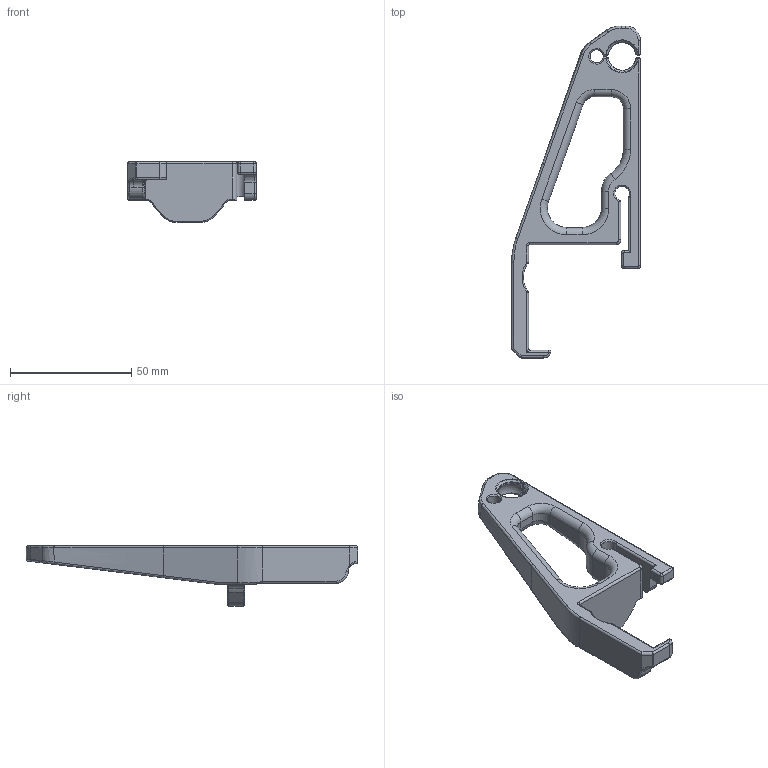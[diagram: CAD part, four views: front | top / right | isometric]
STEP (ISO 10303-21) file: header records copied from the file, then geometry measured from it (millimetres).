
FILE_DESCRIPTION(/* description */ (''),/* implementation_level */ '2;1');
FILE_NAME(/* name */ 'SOVOL SV06 PLUS Pi Camera mount v1.step',/* time_stamp */ '2023-08-26T12:00:41+02:00',/* author */ (''),/* organization */ (''),/* preprocessor_version */ 'ST-DEVELOPER v20',/* originating_system */ 'Autodesk Translation Framework v12.9.0.99',/* authorisation */ '');
FILE_SCHEMA (('AUTOMOTIVE_DESIGN { 1 0 10303 214 3 1 1 }'));
Length unit declared in the file: millimetre
Products named in the file (3): SOVOL SV06 PLUS Pi Camera mount; Komponente1; Komponente3
Assembly tree (2 placements, depth 3):
  SOVOL SV06 PLUS Pi Camera mount
    Komponente1
      Komponente3
Bounding box: 53 x 136.7 x 25 mm (x, y, z)
Volume: 29587.5 mm3; surface area: 12283.4 mm2
Topology: 1 solids, 1 shells, 300 faces, 756 edges, 449 vertices
Faces by surface type: cylinder 123, bspline 77, plane 53, torus 26, cone 17, sphere 4
Full cylindrical faces by diameter (mm): 2.529 x8, 3.086 x5
Entity records: 13255 total; most frequent: CARTESIAN_POINT 6517, ORIENTED_EDGE 1498, DIRECTION 1268, EDGE_CURVE 749, AXIS2_PLACEMENT_3D 503, VERTEX_POINT 450, EDGE_LOOP 303, FACE_OUTER_BOUND 300
